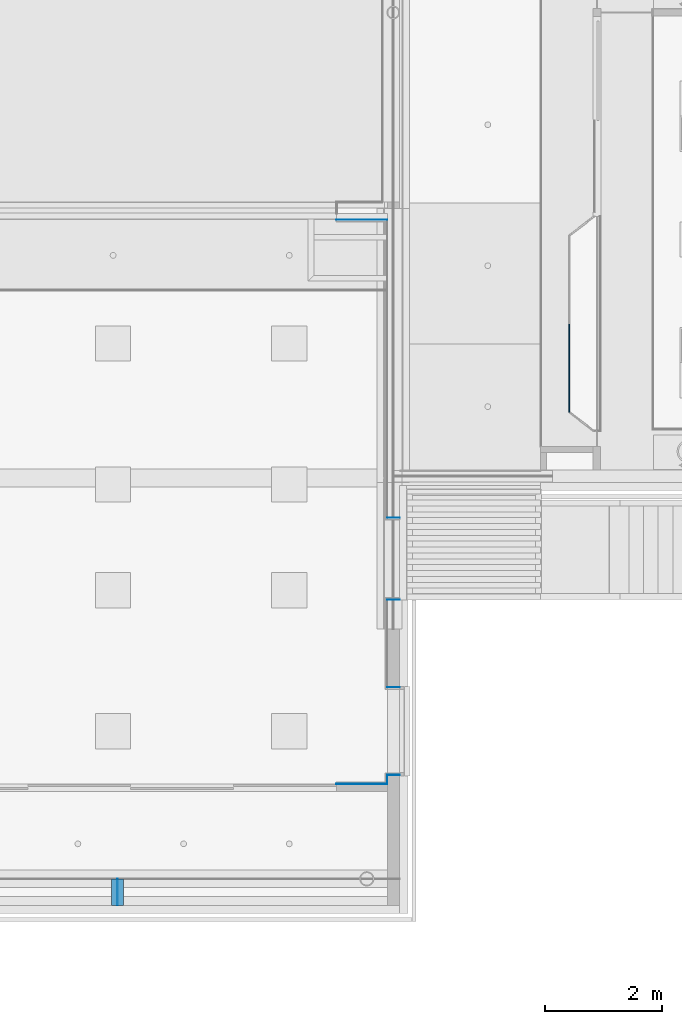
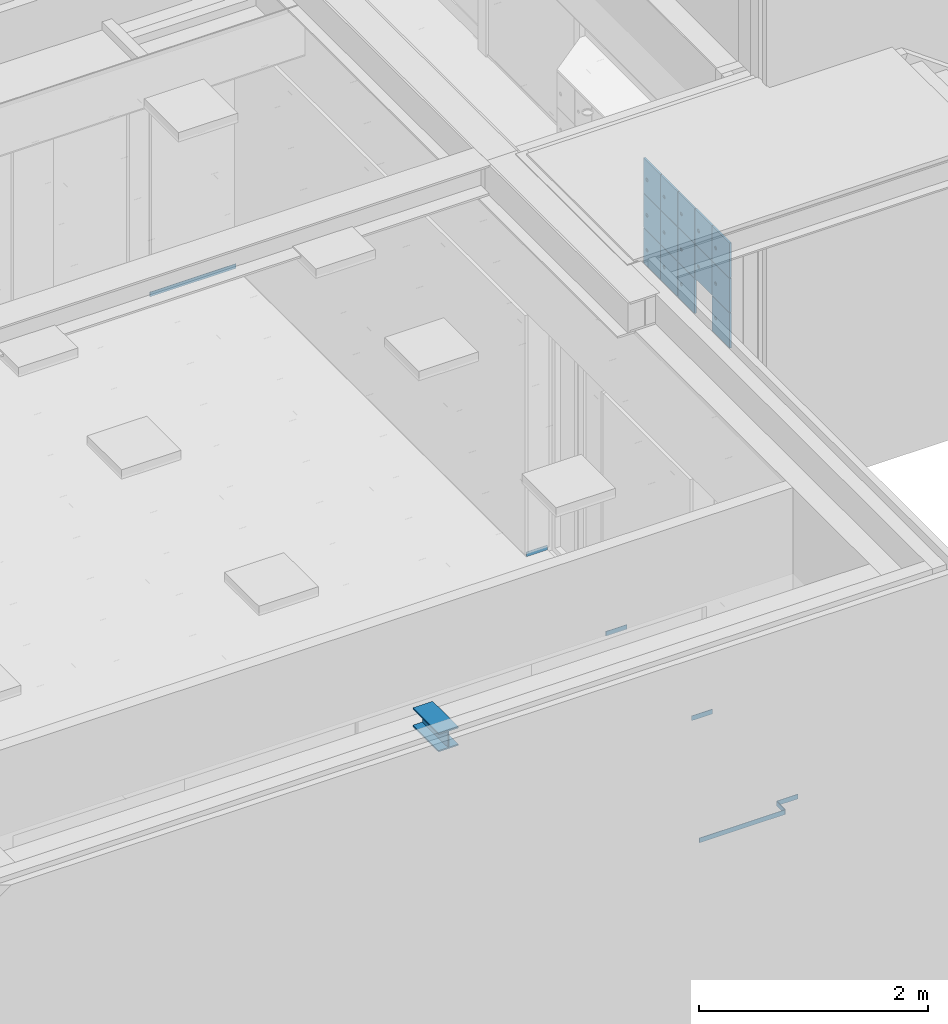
# One storey, part 134 of 347: 24 building element parts, 9 elements without a shape of their own.
"""IFC2X3 building model written with IfcOpenShell, lengths in millimetres."""

from ifc_helpers import new_model, entity, si_unit, converted_unit, derived_unit, money_unit, direction, frame, origin_with_axes, place, context, subcontext, project, spatial, faceted_brep, material, type_object, element, aggregate, save


model = new_model("IFC2X3")

# Units and contexts
model_context = context("Model", 3, precision=0.01, world=origin_with_axes(), true_north=direction((0.0, 1.0)))
plan_context = context("Plan", 3, precision=0.01, world=origin_with_axes(), true_north=direction((0.0, 1.0)))
body_context = subcontext(model_context, "Body", "Model", "MODEL_VIEW")
ifc_project = project(units=[si_unit("LENGTHUNIT", "METRE", prefix="MILLI"), si_unit("AREAUNIT", "SQUARE_METRE"), si_unit("VOLUMEUNIT", "CUBIC_METRE"), converted_unit("PLANEANGLEUNIT", "DEGREE", entity("IfcPlaneAngleMeasure", 0.0174532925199), si_unit("PLANEANGLEUNIT", "RADIAN"), dimensions=[0, 0, 0, 0, 0, 0, 0]), money_unit("EUR"), converted_unit("TIMEUNIT", "Year", entity("IfcTimeMeasure", 31556926.0), si_unit("TIMEUNIT", "SECOND"), dimensions=[0, 0, 1, 0, 0, 0, 0]), si_unit("MASSUNIT", "GRAM", prefix="KILO"), si_unit("THERMODYNAMICTEMPERATUREUNIT", "DEGREE_CELSIUS"), si_unit("LUMINOUSINTENSITYUNIT", "LUMEN"), si_unit("ENERGYUNIT", "JOULE", prefix="MEGA"), derived_unit("THERMALCONDUCTANCEUNIT", [(si_unit("POWERUNIT", "WATT"), 1), (si_unit("LENGTHUNIT", "METRE"), -1), (si_unit("THERMODYNAMICTEMPERATUREUNIT", "KELVIN"), -1)]), derived_unit("SPECIFICHEATCAPACITYUNIT", [(si_unit("ENERGYUNIT", "JOULE"), 1), (si_unit("MASSUNIT", "GRAM", prefix="KILO"), -1), (si_unit("THERMODYNAMICTEMPERATUREUNIT", "KELVIN"), -1)]), derived_unit("MASSDENSITYUNIT", [(si_unit("MASSUNIT", "GRAM", prefix="KILO"), 1), (si_unit("VOLUMEUNIT", "CUBIC_METRE"), -1)])], contexts=[model_context, plan_context])

# Site, building, storey
site_placement = place(None, origin_with_axes())
site = spatial("IfcSite", under=ifc_project, at=site_placement, Name="Site", CompositionType="ELEMENT")
building_placement = place(site_placement, origin_with_axes())
building = spatial("IfcBuilding", under=site, at=building_placement, Name="Naam gebouw", CompositionType="ELEMENT")
storey_placement = place(building_placement, origin_with_axes())
storey = spatial("IfcBuildingStorey", under=building, at=storey_placement, Name="begane grond", CompositionType="ELEMENT", Elevation=0.0)

# Beam, building element parts
beam_type_1 = type_object("IfcBeamType", Name="28 HEB200 200 x 200", PredefinedType="BEAM")
beam_1_placement = place(storey_placement, frame((39850.0, 4850.0000004, 3560.0), z_axis=(0.0, 0.0, 1.0), x_axis=(1.0, 0.0, 0.0)))
beam_1 = element("IfcBeam", 1, at=beam_1_placement, inside=storey, type_object=beam_type_1, Name="28_Balk-x", ObjectType="BEAM")
ifc_material_1 = material(Name="Metaal - Staal C")
building_element_part_1_placement = place(beam_1_placement, origin_with_axes())
building_element_part_1 = element("IfcBuildingElementPart", 2, at=building_element_part_1_placement, material=ifc_material_1, Name="Metaal - Staal C", context=body_context, shape_type="Brep", body=[
    faceted_brep([(-100.0, 450.0, 185.0), (-4.5, 450.0, 185.0), (-4.5, 0.0, 185.0), (-100.0, 0.0, 185.0), (-100.0, 450.0, 200.0), (100.0, 450.0, 200.0), (100.0, 450.0, 185.0), (4.5, 450.0, 185.0), (4.5, 0.0, 185.0), (100.0, 0.0, 185.0), (100.0, 0.0, 200.0), (-100.0, 0.0, 200.0)], [[[0, 1, 2, 3]], [[0, 4, 5, 6, 7, 1]], [[1, 7, 8, 2]], [[3, 2, 8, 9, 10, 11]], [[4, 0, 3, 11]], [[5, 4, 11, 10]], [[6, 5, 10, 9]], [[7, 6, 9, 8]]]),
])
building_element_part_2_placement = place(beam_1_placement, origin_with_axes())
building_element_part_2 = element("IfcBuildingElementPart", 3, at=building_element_part_2_placement, material=ifc_material_1, Name="Metaal - Staal C", context=body_context, shape_type="Brep", body=[
    faceted_brep([(-100.0, 450.0, 15.0), (-100.0, 450.0, 0.0), (-100.0, 0.0, 0.0), (-100.0, 0.0, 15.0), (-4.5, 450.0, 15.0), (4.5, 450.0, 15.0), (100.0, 450.0, 15.0), (100.0, 450.0, 0.0), (100.0, 0.0, 0.0), (100.0, 0.0, 15.0), (4.5, 0.0, 15.0), (-4.5, 0.0, 15.0)], [[[0, 1, 2, 3]], [[0, 4, 5, 6, 7, 1]], [[1, 7, 8, 2]], [[3, 2, 8, 9, 10, 11]], [[4, 0, 3, 11]], [[5, 4, 11, 10]], [[6, 5, 10, 9]], [[7, 6, 9, 8]]]),
])
building_element_part_3_placement = place(beam_1_placement, origin_with_axes())
building_element_part_3 = element("IfcBuildingElementPart", 4, at=building_element_part_3_placement, material=ifc_material_1, Name="Metaal - Staal C", context=body_context, shape_type="Brep", body=[
    faceted_brep([(-4.5, 450.0, 15.0), (4.5, 450.0, 15.0), (4.5, 0.0, 15.0), (-4.5, 0.0, 15.0), (-4.5, 450.0, 185.0), (4.5, 450.0, 185.0), (4.5, 0.0, 185.0), (-4.5, 0.0, 185.0)], [[[0, 1, 2, 3]], [[0, 4, 5, 1]], [[1, 5, 6, 2]], [[3, 2, 6, 7]], [[4, 0, 3, 7]], [[5, 4, 7, 6]]]),
])
aggregate(beam_1, [building_element_part_1, building_element_part_2, building_element_part_3])

# Proxy, building element part
building_element_proxy_type = type_object("IfcBuildingElementProxyType", Name="Viltonwand 2600+ 33 x 2600", PredefinedType="NOTDEFINED")
proxy_1_placement = place(storey_placement, frame((44654.9999844, 7065.00951773, 0.0), z_axis=(0.0, 0.0, 1.0), x_axis=(-1.0, 8.90627314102e-08, 0.0)))
proxy_1 = element("IfcBuildingElementProxy", 5, at=proxy_1_placement, inside=storey, type_object=building_element_proxy_type, Name="42_52 wandtegels keramisch")
ifc_material_2 = material(Name="Kunststof - massief")
building_element_part_4_placement = place(proxy_1_placement, origin_with_axes())
building_element_part_4 = element("IfcBuildingElementPart", 6, at=building_element_part_4_placement, material=ifc_material_2, Name="Kunststof - massief", context=body_context, shape_type="Brep", body=[
    faceted_brep([(214.99958182, -4.99998681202, 0.0), (214.99958182, -4.99998681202, 50.0000059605), (4.45318448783e-07, -5.00000596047, 50.0000059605), (4.45318448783e-07, -5.00000596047, 0.0), (214.999594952, 3.70298618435e-05, 50.0000059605), (214.999594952, 3.70298618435e-05, 0.0), (0.0, 1.78814101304e-05, 50.0000059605), (0.0, 1.78814101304e-05, 0.0)], [[[0, 1, 2, 3]], [[4, 1, 0, 5]], [[1, 4, 6, 2]], [[6, 7, 3, 2]], [[5, 0, 3, 7]], [[4, 5, 7, 6]]]),
])
aggregate(proxy_1, [building_element_part_4])

proxy_2_placement = place(storey_placement, frame((44445.0004073, 7065.00953644, 0.0), z_axis=(0.0, 0.0, 1.0), x_axis=(-2.71545800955e-06, -0.999999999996, 0.0)))
proxy_2 = element("IfcBuildingElementProxy", 7, at=proxy_2_placement, inside=storey, type_object=building_element_proxy_type, Name="42_53 wandtegels keramisch")
building_element_part_5_placement = place(proxy_2_placement, origin_with_axes())
building_element_part_5 = element("IfcBuildingElementPart", 8, at=building_element_part_5_placement, material=ifc_material_2, Name="Kunststof - massief", context=body_context, shape_type="Brep", body=[
    faceted_brep([(3.65844972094e-05, 1.78814119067e-05, 0.0), (3.65844972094e-05, 1.78814119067e-05, 50.0000059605), (150.000005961, 1.78814119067e-05, 50.0000059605), (150.000005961, 1.78814119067e-05, 0.0), (5.01618524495e-05, -5.00000596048, 50.0000059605), (5.01618524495e-05, -5.00000596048, 0.0), (150.000019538, -5.00000596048, 50.0000059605), (150.000019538, -5.00000596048, 0.0)], [[[0, 1, 2, 3]], [[4, 1, 0, 5]], [[1, 4, 6, 2]], [[7, 3, 2, 6]], [[5, 0, 3, 7]], [[4, 5, 7, 6]]]),
])
aggregate(proxy_2, [building_element_part_5])

proxy_3_placement = place(storey_placement, frame((44445.0, 6915.00953644, 0.0), z_axis=(0.0, 0.0, 1.0), x_axis=(-1.0, 0.0, 0.0)))
proxy_3 = element("IfcBuildingElementProxy", 9, at=proxy_3_placement, inside=storey, type_object=building_element_proxy_type, Name="42_54 wandtegels keramisch")
building_element_part_6_placement = place(proxy_3_placement, origin_with_axes())
building_element_part_6 = element("IfcBuildingElementPart", 10, at=building_element_part_6_placement, material=ifc_material_2, Name="Kunststof - massief", context=body_context, shape_type="Brep", body=[
    faceted_brep([(5.00000596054, 1.78814101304e-05, 50.0000059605), (4.99999238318, -5.00000596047, 50.0000059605), (870.0, -5.00000596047, 50.0000059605), (870.0, 1.78814101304e-05, 50.0000059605), (4.99999238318, -5.00000596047, 0.0), (5.00000596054, 1.78814101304e-05, 0.0), (870.0, -5.00000596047, 0.0), (870.0, 1.78814101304e-05, 0.0)], [[[0, 1, 2, 3]], [[4, 1, 0, 5]], [[1, 4, 6, 2]], [[2, 6, 7, 3]], [[5, 0, 3, 7]], [[4, 5, 7, 6]]]),
])
aggregate(proxy_3, [building_element_part_6])

proxy_4_placement = place(storey_placement, frame((44655.0007534, 10050.0, 0.0), z_axis=(0.0, 0.0, 1.0), x_axis=(-1.0, 0.0, 0.0)))
proxy_4 = element("IfcBuildingElementProxy", 11, at=proxy_4_placement, inside=storey, type_object=building_element_proxy_type, Name="42_55 wandtegels keramisch")
building_element_part_7_placement = place(proxy_4_placement, origin_with_axes())
building_element_part_7 = element("IfcBuildingElementPart", 12, at=building_element_part_7_placement, material=ifc_material_2, Name="Kunststof - massief", context=body_context, shape_type="Brep", body=[
    faceted_brep([(215.000098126, -5.00000596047, 0.0), (215.000098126, -5.00000596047, 50.0000059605), (0.0, -5.00000596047, 50.0000059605), (0.0, -5.00000596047, 0.0), (215.000098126, 1.78814101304e-05, 50.0000059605), (215.000098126, 1.78814101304e-05, 0.0), (0.0, 1.78814101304e-05, 50.0000059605), (0.0, 1.78814101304e-05, 0.0)], [[[0, 1, 2, 3]], [[4, 1, 0, 5]], [[1, 4, 6, 2]], [[6, 7, 3, 2]], [[5, 0, 3, 7]], [[4, 5, 7, 6]]]),
])
aggregate(proxy_4, [building_element_part_7])

proxy_5_placement = place(storey_placement, frame((44445.0005409, 8565.00953644, 0.0), z_axis=(0.0, 0.0, 1.0), x_axis=(1.0, -8.90627330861e-08, 0.0)))
proxy_5 = element("IfcBuildingElementProxy", 13, at=proxy_5_placement, inside=storey, type_object=building_element_proxy_type, Name="42_57 wandtegels keramisch")
building_element_part_8_placement = place(proxy_5_placement, origin_with_axes())
building_element_part_8 = element("IfcBuildingElementPart", 14, at=building_element_part_8_placement, material=ifc_material_2, Name="Kunststof - massief", context=body_context, shape_type="Brep", body=[
    faceted_brep([(0.000150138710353, 1.78814225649e-05, 0.0), (0.000150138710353, 1.78814225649e-05, 50.0000059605), (209.999440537, 3.65845345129e-05, 50.0000059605), (209.999440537, 3.65845345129e-05, 0.0), (0.000150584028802, -5.00000596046, 50.0000059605), (0.000150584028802, -5.00000596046, 0.0), (209.999440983, -4.99998725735, 50.0000059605), (209.999440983, -4.99998725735, 0.0)], [[[0, 1, 2, 3]], [[4, 1, 0, 5]], [[1, 4, 6, 2]], [[6, 7, 3, 2]], [[5, 0, 3, 7]], [[4, 5, 7, 6]]]),
])
aggregate(proxy_5, [building_element_part_8])

proxy_6_placement = place(storey_placement, frame((43574.9999056, 16525.0, 0.0), z_axis=(0.0, 0.0, 1.0), x_axis=(1.0, 0.0, 0.0)))
proxy_6 = element("IfcBuildingElementProxy", 15, at=proxy_6_placement, inside=storey, type_object=building_element_proxy_type, Name="42_58 wandtegels keramisch")
building_element_part_9_placement = place(proxy_6_placement, origin_with_axes())
building_element_part_9 = element("IfcBuildingElementPart", 16, at=building_element_part_9_placement, material=ifc_material_2, Name="Kunststof - massief", context=body_context, shape_type="Brep", body=[
    faceted_brep([(870.000101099, -5.00000596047, 50.0000059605), (870.000100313, 1.7881408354e-05, 50.0000059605), (0.0, 1.78814119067e-05, 50.0000059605), (0.0, -5.00000596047, 50.0000059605), (870.000100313, 1.7881408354e-05, 0.0), (870.000101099, -5.00000596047, 0.0), (0.0, 1.78814119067e-05, 0.0), (0.0, -5.00000596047, 0.0)], [[[0, 1, 2, 3]], [[4, 1, 0, 5]], [[1, 4, 6, 2]], [[2, 6, 7, 3]], [[5, 0, 3, 7]], [[4, 5, 7, 6]]]),
])
aggregate(proxy_6, [building_element_part_9])

proxy_7_placement = place(storey_placement, frame((44445.0007979, 11450.0, 0.0), z_axis=(0.0, 0.0, 1.0), x_axis=(1.0, -8.90627339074e-08, 0.0)))
proxy_7 = element("IfcBuildingElementProxy", 17, at=proxy_7_placement, inside=storey, type_object=building_element_proxy_type, Name="42_60 wandtegels keramisch")
building_element_part_10_placement = place(proxy_7_placement, origin_with_axes())
building_element_part_10 = element("IfcBuildingElementPart", 18, at=building_element_part_10_placement, material=ifc_material_2, Name="Kunststof - massief", context=body_context, shape_type="Brep", body=[
    faceted_brep([(1.78814119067e-05, 1.78814119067e-05, 0.0), (1.78814119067e-05, 1.78814119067e-05, 50.0000059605), (209.999997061, 3.65845842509e-05, 50.0000059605), (209.999997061, 3.65845842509e-05, 0.0), (1.91128037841e-05, -5.00000596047, 50.0000059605), (1.91128037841e-05, -5.00000596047, 0.0), (209.999997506, -4.9999872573, 50.0000059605), (209.999997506, -4.9999872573, 0.0)], [[[0, 1, 2, 3]], [[4, 1, 0, 5]], [[1, 4, 6, 2]], [[6, 7, 3, 2]], [[5, 0, 3, 7]], [[4, 5, 7, 6]]]),
])
aggregate(proxy_7, [building_element_part_10])

# Beam, building element parts
beam_type_2 = type_object("IfcBeamType", Name="VI Garderobe 01 3012 x 1122", PredefinedType="BEAM")
beam_2_placement = place(storey_placement, frame((47531.9720234, 16255.5, 0.0), z_axis=(0.0, 0.0, 1.0), x_axis=(0.0, -1.0, 0.0)))
beam_2 = element("IfcBeam", 19, at=beam_2_placement, inside=storey, type_object=beam_type_2, Name="28_Balk-x", ObjectType="BEAM")
ifc_material_3 = material(Name="Hout - Lockers")
building_element_part_11_placement = place(beam_2_placement, origin_with_axes())
building_element_part_11 = element("IfcBuildingElementPart", 20, at=building_element_part_11_placement, material=ifc_material_3, Name="Hout - Lockers", context=body_context, shape_type="Brep", body=[
    faceted_brep([(2709.0, 18.0, 1175.0), (2709.0, 18.0, 802.0), (2709.0, 0.0, 802.0), (2709.0, 0.0, 1175.0), (3012.0, 18.0, 1175.0), (3012.0, 18.0, 802.0), (2787.0, 18.0, 975.0), (2783.5623059, 18.0, 985.580134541), (2774.5623059, 18.0, 992.119017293), (2763.4376941, 18.0, 992.119017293), (2754.4376941, 18.0, 985.580134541), (2751.0, 18.0, 975.0), (2754.4376941, 18.0, 964.419865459), (2763.4376941, 18.0, 957.880982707), (2774.5623059, 18.0, 957.880982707), (2783.5623059, 18.0, 964.419865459), (3012.0, 0.0, 802.0), (3012.0, 0.0, 1175.0), (2787.0, 0.0, 975.0), (2783.5623059, 0.0, 964.419865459), (2774.5623059, 0.0, 957.880982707), (2763.4376941, 0.0, 957.880982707), (2754.4376941, 0.0, 964.419865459), (2751.0, 0.0, 975.0), (2754.4376941, 0.0, 985.580134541), (2763.4376941, 0.0, 992.119017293), (2774.5623059, 0.0, 992.119017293), (2783.5623059, 0.0, 985.580134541)], [[[0, 1, 2, 3]], [[0, 4, 5, 1], [6, 7, 8, 9, 10, 11, 12, 13, 14, 15]], [[1, 5, 16, 2]], [[3, 2, 16, 17], [18, 19, 20, 21, 22, 23, 24, 25, 26, 27]], [[4, 0, 3, 17]], [[5, 4, 17, 16]], [[7, 6, 18, 27]], [[8, 7, 27, 26]], [[9, 8, 26, 25]], [[10, 9, 25, 24]], [[11, 10, 24, 23]], [[12, 11, 23, 22]], [[13, 12, 22, 21]], [[14, 13, 21, 20]], [[15, 14, 20, 19]], [[6, 15, 19, 18]]]),
])
building_element_part_12_placement = place(beam_2_placement, origin_with_axes())
building_element_part_12 = element("IfcBuildingElementPart", 21, at=building_element_part_12_placement, material=ifc_material_3, Name="Hout - Lockers", context=body_context, shape_type="Brep", body=[
    faceted_brep([(2709.0, 18.0, 796.0), (2709.0, 18.0, 432.0), (2709.0, 0.0, 432.0), (2709.0, 0.0, 796.0), (3012.0, 18.0, 796.0), (3012.0, 18.0, 432.0), (2787.0, 18.0, 596.0), (2783.5623059, 18.0, 606.580134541), (2774.5623059, 18.0, 613.119017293), (2763.4376941, 18.0, 613.119017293), (2754.4376941, 18.0, 606.580134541), (2751.0, 18.0, 596.0), (2754.4376941, 18.0, 585.419865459), (2763.4376941, 18.0, 578.880982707), (2774.5623059, 18.0, 578.880982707), (2783.5623059, 18.0, 585.419865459), (3012.0, 0.0, 432.0), (3012.0, 0.0, 796.0), (2787.0, 0.0, 596.0), (2783.5623059, 0.0, 585.419865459), (2774.5623059, 0.0, 578.880982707), (2763.4376941, 0.0, 578.880982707), (2754.4376941, 0.0, 585.419865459), (2751.0, 0.0, 596.0), (2754.4376941, 0.0, 606.580134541), (2763.4376941, 0.0, 613.119017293), (2774.5623059, 0.0, 613.119017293), (2783.5623059, 0.0, 606.580134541)], [[[0, 1, 2, 3]], [[0, 4, 5, 1], [6, 7, 8, 9, 10, 11, 12, 13, 14, 15]], [[1, 5, 16, 2]], [[3, 2, 16, 17], [18, 19, 20, 21, 22, 23, 24, 25, 26, 27]], [[4, 0, 3, 17]], [[5, 4, 17, 16]], [[7, 6, 18, 27]], [[8, 7, 27, 26]], [[9, 8, 26, 25]], [[10, 9, 25, 24]], [[11, 10, 24, 23]], [[12, 11, 23, 22]], [[13, 12, 22, 21]], [[14, 13, 21, 20]], [[15, 14, 20, 19]], [[6, 15, 19, 18]]]),
])
building_element_part_13_placement = place(beam_2_placement, origin_with_axes())
building_element_part_13 = element("IfcBuildingElementPart", 22, at=building_element_part_13_placement, material=ifc_material_3, Name="Hout - Lockers", context=body_context, shape_type="Brep", body=[
    faceted_brep([(2709.0, 18.0, 426.0), (2709.0, 18.0, 53.0), (2709.0, 0.0, 53.0), (2709.0, 0.0, 426.0), (3012.0, 18.0, 426.0), (3012.0, 18.0, 53.0), (2785.5992825, 18.0, 226.009810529), (2782.1615884, 18.0, 236.58994507), (2773.1615884, 18.0, 243.128827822), (2762.0369766, 18.0, 243.128827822), (2753.0369766, 18.0, 236.58994507), (2749.5992825, 18.0, 226.009810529), (2753.0369766, 18.0, 215.429675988), (2762.0369766, 18.0, 208.890793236), (2773.1615884, 18.0, 208.890793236), (2782.1615884, 18.0, 215.429675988), (3012.0, 0.0, 53.0), (3012.0, 0.0, 426.0), (2785.5992825, 0.0, 226.009810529), (2782.1615884, 0.0, 215.429675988), (2773.1615884, 0.0, 208.890793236), (2762.0369766, 0.0, 208.890793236), (2753.0369766, 0.0, 215.429675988), (2749.5992825, 0.0, 226.009810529), (2753.0369766, 0.0, 236.58994507), (2762.0369766, 0.0, 243.128827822), (2773.1615884, 0.0, 243.128827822), (2782.1615884, 0.0, 236.58994507)], [[[0, 1, 2, 3]], [[0, 4, 5, 1], [6, 7, 8, 9, 10, 11, 12, 13, 14, 15]], [[1, 5, 16, 2]], [[3, 2, 16, 17], [18, 19, 20, 21, 22, 23, 24, 25, 26, 27]], [[4, 0, 3, 17]], [[5, 4, 17, 16]], [[7, 6, 18, 27]], [[8, 7, 27, 26]], [[9, 8, 26, 25]], [[10, 9, 25, 24]], [[11, 10, 24, 23]], [[12, 11, 23, 22]], [[13, 12, 22, 21]], [[14, 13, 21, 20]], [[15, 14, 20, 19]], [[6, 15, 19, 18]]]),
])
building_element_part_14_placement = place(beam_2_placement, origin_with_axes())
building_element_part_14 = element("IfcBuildingElementPart", 23, at=building_element_part_14_placement, material=ifc_material_3, Name="Hout - Lockers", context=body_context, shape_type="Brep", body=[
    faceted_brep([(2109.0, 18.0, 1175.0), (2109.0, 18.0, 802.0), (2109.0, 0.0, 802.0), (2109.0, 0.0, 1175.0), (2403.0, 18.0, 1175.0), (2403.0, 18.0, 802.0), (2187.0, 18.0, 975.0), (2183.5623059, 18.0, 985.580134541), (2174.5623059, 18.0, 992.119017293), (2163.4376941, 18.0, 992.119017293), (2154.4376941, 18.0, 985.580134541), (2151.0, 18.0, 975.0), (2154.4376941, 18.0, 964.419865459), (2163.4376941, 18.0, 957.880982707), (2174.5623059, 18.0, 957.880982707), (2183.5623059, 18.0, 964.419865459), (2403.0, 0.0, 802.0), (2403.0, 0.0, 1175.0), (2187.0, 0.0, 975.0), (2183.5623059, 0.0, 964.419865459), (2174.5623059, 0.0, 957.880982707), (2163.4376941, 0.0, 957.880982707), (2154.4376941, 0.0, 964.419865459), (2151.0, 0.0, 975.0), (2154.4376941, 0.0, 985.580134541), (2163.4376941, 0.0, 992.119017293), (2174.5623059, 0.0, 992.119017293), (2183.5623059, 0.0, 985.580134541)], [[[0, 1, 2, 3]], [[0, 4, 5, 1], [6, 7, 8, 9, 10, 11, 12, 13, 14, 15]], [[1, 5, 16, 2]], [[3, 2, 16, 17], [18, 19, 20, 21, 22, 23, 24, 25, 26, 27]], [[4, 0, 3, 17]], [[5, 4, 17, 16]], [[7, 6, 18, 27]], [[8, 7, 27, 26]], [[9, 8, 26, 25]], [[10, 9, 25, 24]], [[11, 10, 24, 23]], [[12, 11, 23, 22]], [[13, 12, 22, 21]], [[14, 13, 21, 20]], [[15, 14, 20, 19]], [[6, 15, 19, 18]]]),
])
building_element_part_15_placement = place(beam_2_placement, origin_with_axes())
building_element_part_15 = element("IfcBuildingElementPart", 24, at=building_element_part_15_placement, material=ifc_material_3, Name="Hout - Lockers", context=body_context, shape_type="Brep", body=[
    faceted_brep([(2109.0, 18.0, 796.0), (2109.0, 18.0, 432.0), (2109.0, 0.0, 432.0), (2109.0, 0.0, 796.0), (2403.0, 18.0, 796.0), (2403.0, 18.0, 432.0), (2187.0, 18.0, 596.0), (2183.5623059, 18.0, 606.580134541), (2174.5623059, 18.0, 613.119017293), (2163.4376941, 18.0, 613.119017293), (2154.4376941, 18.0, 606.580134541), (2151.0, 18.0, 596.0), (2154.4376941, 18.0, 585.419865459), (2163.4376941, 18.0, 578.880982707), (2174.5623059, 18.0, 578.880982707), (2183.5623059, 18.0, 585.419865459), (2403.0, 0.0, 432.0), (2403.0, 0.0, 796.0), (2187.0, 0.0, 596.0), (2183.5623059, 0.0, 585.419865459), (2174.5623059, 0.0, 578.880982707), (2163.4376941, 0.0, 578.880982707), (2154.4376941, 0.0, 585.419865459), (2151.0, 0.0, 596.0), (2154.4376941, 0.0, 606.580134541), (2163.4376941, 0.0, 613.119017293), (2174.5623059, 0.0, 613.119017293), (2183.5623059, 0.0, 606.580134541)], [[[0, 1, 2, 3]], [[0, 4, 5, 1], [6, 7, 8, 9, 10, 11, 12, 13, 14, 15]], [[1, 5, 16, 2]], [[3, 2, 16, 17], [18, 19, 20, 21, 22, 23, 24, 25, 26, 27]], [[4, 0, 3, 17]], [[5, 4, 17, 16]], [[7, 6, 18, 27]], [[8, 7, 27, 26]], [[9, 8, 26, 25]], [[10, 9, 25, 24]], [[11, 10, 24, 23]], [[12, 11, 23, 22]], [[13, 12, 22, 21]], [[14, 13, 21, 20]], [[15, 14, 20, 19]], [[6, 15, 19, 18]]]),
])
building_element_part_16_placement = place(beam_2_placement, origin_with_axes())
building_element_part_16 = element("IfcBuildingElementPart", 25, at=building_element_part_16_placement, material=ifc_material_3, Name="Hout - Lockers", context=body_context, shape_type="Brep", body=[
    faceted_brep([(2109.0, 18.0, 426.0), (2109.0, 18.0, 53.0), (2109.0, 0.0, 53.0), (2109.0, 0.0, 426.0), (2403.0, 18.0, 426.0), (2403.0, 18.0, 53.0), (2187.0, 18.0, 226.0), (2183.5623059, 18.0, 236.580134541), (2174.5623059, 18.0, 243.119017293), (2163.4376941, 18.0, 243.119017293), (2154.4376941, 18.0, 236.580134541), (2151.0, 18.0, 226.0), (2154.4376941, 18.0, 215.419865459), (2163.4376941, 18.0, 208.880982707), (2174.5623059, 18.0, 208.880982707), (2183.5623059, 18.0, 215.419865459), (2403.0, 0.0, 53.0), (2403.0, 0.0, 426.0), (2187.0, 0.0, 226.0), (2183.5623059, 0.0, 215.419865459), (2174.5623059, 0.0, 208.880982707), (2163.4376941, 0.0, 208.880982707), (2154.4376941, 0.0, 215.419865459), (2151.0, 0.0, 226.0), (2154.4376941, 0.0, 236.580134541), (2163.4376941, 0.0, 243.119017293), (2174.5623059, 0.0, 243.119017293), (2183.5623059, 0.0, 236.580134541)], [[[0, 1, 2, 3]], [[0, 4, 5, 1], [6, 7, 8, 9, 10, 11, 12, 13, 14, 15]], [[1, 5, 16, 2]], [[3, 2, 16, 17], [18, 19, 20, 21, 22, 23, 24, 25, 26, 27]], [[4, 0, 3, 17]], [[5, 4, 17, 16]], [[7, 6, 18, 27]], [[8, 7, 27, 26]], [[9, 8, 26, 25]], [[10, 9, 25, 24]], [[11, 10, 24, 23]], [[12, 11, 23, 22]], [[13, 12, 22, 21]], [[14, 13, 21, 20]], [[15, 14, 20, 19]], [[6, 15, 19, 18]]]),
])
building_element_part_17_placement = place(beam_2_placement, origin_with_axes())
building_element_part_17 = element("IfcBuildingElementPart", 26, at=building_element_part_17_placement, material=ifc_material_3, Name="Hout - Lockers", context=body_context, shape_type="Brep", body=[
    faceted_brep([(1809.0, 18.0, 1175.0), (1809.0, 18.0, 802.0), (1809.0, 0.0, 802.0), (1809.0, 0.0, 1175.0), (2103.0, 18.0, 1175.0), (2103.0, 18.0, 802.0), (1887.0, 18.0, 975.0), (1883.5623059, 18.0, 985.580134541), (1874.5623059, 18.0, 992.119017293), (1863.4376941, 18.0, 992.119017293), (1854.4376941, 18.0, 985.580134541), (1851.0, 18.0, 975.0), (1854.4376941, 18.0, 964.419865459), (1863.4376941, 18.0, 957.880982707), (1874.5623059, 18.0, 957.880982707), (1883.5623059, 18.0, 964.419865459), (2103.0, 0.0, 802.0), (2103.0, 0.0, 1175.0), (1887.0, 0.0, 975.0), (1883.5623059, 0.0, 964.419865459), (1874.5623059, 0.0, 957.880982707), (1863.4376941, 0.0, 957.880982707), (1854.4376941, 0.0, 964.419865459), (1851.0, 0.0, 975.0), (1854.4376941, 0.0, 985.580134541), (1863.4376941, 0.0, 992.119017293), (1874.5623059, 0.0, 992.119017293), (1883.5623059, 0.0, 985.580134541)], [[[0, 1, 2, 3]], [[0, 4, 5, 1], [6, 7, 8, 9, 10, 11, 12, 13, 14, 15]], [[1, 5, 16, 2]], [[3, 2, 16, 17], [18, 19, 20, 21, 22, 23, 24, 25, 26, 27]], [[4, 0, 3, 17]], [[5, 4, 17, 16]], [[7, 6, 18, 27]], [[8, 7, 27, 26]], [[9, 8, 26, 25]], [[10, 9, 25, 24]], [[11, 10, 24, 23]], [[12, 11, 23, 22]], [[13, 12, 22, 21]], [[14, 13, 21, 20]], [[15, 14, 20, 19]], [[6, 15, 19, 18]]]),
])
building_element_part_18_placement = place(beam_2_placement, origin_with_axes())
building_element_part_18 = element("IfcBuildingElementPart", 27, at=building_element_part_18_placement, material=ifc_material_3, Name="Hout - Lockers", context=body_context, shape_type="Brep", body=[
    faceted_brep([(1809.0, 18.0, 796.0), (1809.0, 18.0, 432.0), (1809.0, 0.0, 432.0), (1809.0, 0.0, 796.0), (2103.0, 18.0, 796.0), (2103.0, 18.0, 432.0), (1887.0, 18.0, 596.0), (1883.5623059, 18.0, 606.580134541), (1874.5623059, 18.0, 613.119017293), (1863.4376941, 18.0, 613.119017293), (1854.4376941, 18.0, 606.580134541), (1851.0, 18.0, 596.0), (1854.4376941, 18.0, 585.419865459), (1863.4376941, 18.0, 578.880982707), (1874.5623059, 18.0, 578.880982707), (1883.5623059, 18.0, 585.419865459), (2103.0, 0.0, 432.0), (2103.0, 0.0, 796.0), (1887.0, 0.0, 596.0), (1883.5623059, 0.0, 585.419865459), (1874.5623059, 0.0, 578.880982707), (1863.4376941, 0.0, 578.880982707), (1854.4376941, 0.0, 585.419865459), (1851.0, 0.0, 596.0), (1854.4376941, 0.0, 606.580134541), (1863.4376941, 0.0, 613.119017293), (1874.5623059, 0.0, 613.119017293), (1883.5623059, 0.0, 606.580134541)], [[[0, 1, 2, 3]], [[0, 4, 5, 1], [6, 7, 8, 9, 10, 11, 12, 13, 14, 15]], [[1, 5, 16, 2]], [[3, 2, 16, 17], [18, 19, 20, 21, 22, 23, 24, 25, 26, 27]], [[4, 0, 3, 17]], [[5, 4, 17, 16]], [[7, 6, 18, 27]], [[8, 7, 27, 26]], [[9, 8, 26, 25]], [[10, 9, 25, 24]], [[11, 10, 24, 23]], [[12, 11, 23, 22]], [[13, 12, 22, 21]], [[14, 13, 21, 20]], [[15, 14, 20, 19]], [[6, 15, 19, 18]]]),
])
building_element_part_19_placement = place(beam_2_placement, origin_with_axes())
building_element_part_19 = element("IfcBuildingElementPart", 28, at=building_element_part_19_placement, material=ifc_material_3, Name="Hout - Lockers", context=body_context, shape_type="Brep", body=[
    faceted_brep([(1809.0, 18.0, 426.0), (1809.0, 18.0, 53.0), (1809.0, 0.0, 53.0), (1809.0, 0.0, 426.0), (2103.0, 18.0, 426.0), (2103.0, 18.0, 53.0), (1887.0, 18.0, 226.0), (1883.5623059, 18.0, 236.580134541), (1874.5623059, 18.0, 243.119017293), (1863.4376941, 18.0, 243.119017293), (1854.4376941, 18.0, 236.580134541), (1851.0, 18.0, 226.0), (1854.4376941, 18.0, 215.419865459), (1863.4376941, 18.0, 208.880982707), (1874.5623059, 18.0, 208.880982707), (1883.5623059, 18.0, 215.419865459), (2103.0, 0.0, 53.0), (2103.0, 0.0, 426.0), (1887.0, 0.0, 226.0), (1883.5623059, 0.0, 215.419865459), (1874.5623059, 0.0, 208.880982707), (1863.4376941, 0.0, 208.880982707), (1854.4376941, 0.0, 215.419865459), (1851.0, 0.0, 226.0), (1854.4376941, 0.0, 236.580134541), (1863.4376941, 0.0, 243.119017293), (1874.5623059, 0.0, 243.119017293), (1883.5623059, 0.0, 236.580134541)], [[[0, 1, 2, 3]], [[0, 4, 5, 1], [6, 7, 8, 9, 10, 11, 12, 13, 14, 15]], [[1, 5, 16, 2]], [[3, 2, 16, 17], [18, 19, 20, 21, 22, 23, 24, 25, 26, 27]], [[4, 0, 3, 17]], [[5, 4, 17, 16]], [[7, 6, 18, 27]], [[8, 7, 27, 26]], [[9, 8, 26, 25]], [[10, 9, 25, 24]], [[11, 10, 24, 23]], [[12, 11, 23, 22]], [[13, 12, 22, 21]], [[14, 13, 21, 20]], [[15, 14, 20, 19]], [[6, 15, 19, 18]]]),
])
building_element_part_20_placement = place(beam_2_placement, origin_with_axes())
building_element_part_20 = element("IfcBuildingElementPart", 29, at=building_element_part_20_placement, material=ifc_material_3, Name="Hout - Lockers", context=body_context, shape_type="Brep", body=[
    faceted_brep([(1509.0, 18.0, 1175.0), (1509.0, 18.0, 802.0), (1509.0, 0.0, 802.0), (1509.0, 0.0, 1175.0), (1803.0, 18.0, 1175.0), (1803.0, 18.0, 802.0), (1587.0, 18.0, 975.0), (1583.5623059, 18.0, 985.580134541), (1574.5623059, 18.0, 992.119017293), (1563.4376941, 18.0, 992.119017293), (1554.4376941, 18.0, 985.580134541), (1551.0, 18.0, 975.0), (1554.4376941, 18.0, 964.419865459), (1563.4376941, 18.0, 957.880982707), (1574.5623059, 18.0, 957.880982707), (1583.5623059, 18.0, 964.419865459), (1803.0, 0.0, 802.0), (1803.0, 0.0, 1175.0), (1587.0, 0.0, 975.0), (1583.5623059, 0.0, 964.419865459), (1574.5623059, 0.0, 957.880982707), (1563.4376941, 0.0, 957.880982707), (1554.4376941, 0.0, 964.419865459), (1551.0, 0.0, 975.0), (1554.4376941, 0.0, 985.580134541), (1563.4376941, 0.0, 992.119017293), (1574.5623059, 0.0, 992.119017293), (1583.5623059, 0.0, 985.580134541)], [[[0, 1, 2, 3]], [[0, 4, 5, 1], [6, 7, 8, 9, 10, 11, 12, 13, 14, 15]], [[1, 5, 16, 2]], [[3, 2, 16, 17], [18, 19, 20, 21, 22, 23, 24, 25, 26, 27]], [[4, 0, 3, 17]], [[5, 4, 17, 16]], [[7, 6, 18, 27]], [[8, 7, 27, 26]], [[9, 8, 26, 25]], [[10, 9, 25, 24]], [[11, 10, 24, 23]], [[12, 11, 23, 22]], [[13, 12, 22, 21]], [[14, 13, 21, 20]], [[15, 14, 20, 19]], [[6, 15, 19, 18]]]),
])
building_element_part_21_placement = place(beam_2_placement, origin_with_axes())
building_element_part_21 = element("IfcBuildingElementPart", 30, at=building_element_part_21_placement, material=ifc_material_3, Name="Hout - Lockers", context=body_context, shape_type="Brep", body=[
    faceted_brep([(1509.0, 18.0, 796.0), (1509.0, 18.0, 432.0), (1509.0, 0.0, 432.0), (1509.0, 0.0, 796.0), (1803.0, 18.0, 796.0), (1803.0, 18.0, 432.0), (1587.0, 18.0, 596.0), (1583.5623059, 18.0, 606.580134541), (1574.5623059, 18.0, 613.119017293), (1563.4376941, 18.0, 613.119017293), (1554.4376941, 18.0, 606.580134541), (1551.0, 18.0, 596.0), (1554.4376941, 18.0, 585.419865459), (1563.4376941, 18.0, 578.880982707), (1574.5623059, 18.0, 578.880982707), (1583.5623059, 18.0, 585.419865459), (1803.0, 0.0, 432.0), (1803.0, 0.0, 796.0), (1587.0, 0.0, 596.0), (1583.5623059, 0.0, 585.419865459), (1574.5623059, 0.0, 578.880982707), (1563.4376941, 0.0, 578.880982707), (1554.4376941, 0.0, 585.419865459), (1551.0, 0.0, 596.0), (1554.4376941, 0.0, 606.580134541), (1563.4376941, 0.0, 613.119017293), (1574.5623059, 0.0, 613.119017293), (1583.5623059, 0.0, 606.580134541)], [[[0, 1, 2, 3]], [[0, 4, 5, 1], [6, 7, 8, 9, 10, 11, 12, 13, 14, 15]], [[1, 5, 16, 2]], [[3, 2, 16, 17], [18, 19, 20, 21, 22, 23, 24, 25, 26, 27]], [[4, 0, 3, 17]], [[5, 4, 17, 16]], [[7, 6, 18, 27]], [[8, 7, 27, 26]], [[9, 8, 26, 25]], [[10, 9, 25, 24]], [[11, 10, 24, 23]], [[12, 11, 23, 22]], [[13, 12, 22, 21]], [[14, 13, 21, 20]], [[15, 14, 20, 19]], [[6, 15, 19, 18]]]),
])
building_element_part_22_placement = place(beam_2_placement, origin_with_axes())
building_element_part_22 = element("IfcBuildingElementPart", 31, at=building_element_part_22_placement, material=ifc_material_3, Name="Hout - Lockers", context=body_context, shape_type="Brep", body=[
    faceted_brep([(1509.0, 18.0, 426.0), (1509.0, 18.0, 53.0), (1509.0, 0.0, 53.0), (1509.0, 0.0, 426.0), (1803.0, 18.0, 426.0), (1803.0, 18.0, 53.0), (1587.0, 18.0, 226.0), (1583.5623059, 18.0, 236.580134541), (1574.5623059, 18.0, 243.119017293), (1563.4376941, 18.0, 243.119017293), (1554.4376941, 18.0, 236.580134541), (1551.0, 18.0, 226.0), (1554.4376941, 18.0, 215.419865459), (1563.4376941, 18.0, 208.880982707), (1574.5623059, 18.0, 208.880982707), (1583.5623059, 18.0, 215.419865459), (1803.0, 0.0, 53.0), (1803.0, 0.0, 426.0), (1587.0, 0.0, 226.0), (1583.5623059, 0.0, 215.419865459), (1574.5623059, 0.0, 208.880982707), (1563.4376941, 0.0, 208.880982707), (1554.4376941, 0.0, 215.419865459), (1551.0, 0.0, 226.0), (1554.4376941, 0.0, 236.580134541), (1563.4376941, 0.0, 243.119017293), (1574.5623059, 0.0, 243.119017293), (1583.5623059, 0.0, 236.580134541)], [[[0, 1, 2, 3]], [[0, 4, 5, 1], [6, 7, 8, 9, 10, 11, 12, 13, 14, 15]], [[1, 5, 16, 2]], [[3, 2, 16, 17], [18, 19, 20, 21, 22, 23, 24, 25, 26, 27]], [[4, 0, 3, 17]], [[5, 4, 17, 16]], [[7, 6, 18, 27]], [[8, 7, 27, 26]], [[9, 8, 26, 25]], [[10, 9, 25, 24]], [[11, 10, 24, 23]], [[12, 11, 23, 22]], [[13, 12, 22, 21]], [[14, 13, 21, 20]], [[15, 14, 20, 19]], [[6, 15, 19, 18]]]),
])
building_element_part_23_placement = place(beam_2_placement, origin_with_axes())
building_element_part_23 = element("IfcBuildingElementPart", 32, at=building_element_part_23_placement, material=ifc_material_3, Name="Hout - Lockers", context=body_context, shape_type="Brep", body=[
    faceted_brep([(2409.0, 18.0, 1175.0), (2409.0, 18.0, 802.0), (2409.0, 0.0, 802.0), (2409.0, 0.0, 1175.0), (2703.0, 18.0, 1175.0), (2703.0, 18.0, 802.0), (2487.0, 18.0, 975.0), (2483.5623059, 18.0, 985.580134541), (2474.5623059, 18.0, 992.119017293), (2463.4376941, 18.0, 992.119017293), (2454.4376941, 18.0, 985.580134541), (2451.0, 18.0, 975.0), (2454.4376941, 18.0, 964.419865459), (2463.4376941, 18.0, 957.880982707), (2474.5623059, 18.0, 957.880982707), (2483.5623059, 18.0, 964.419865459), (2703.0, 0.0, 802.0), (2703.0, 0.0, 1175.0), (2487.0, 0.0, 975.0), (2483.5623059, 0.0, 964.419865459), (2474.5623059, 0.0, 957.880982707), (2463.4376941, 0.0, 957.880982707), (2454.4376941, 0.0, 964.419865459), (2451.0, 0.0, 975.0), (2454.4376941, 0.0, 985.580134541), (2463.4376941, 0.0, 992.119017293), (2474.5623059, 0.0, 992.119017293), (2483.5623059, 0.0, 985.580134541)], [[[0, 1, 2, 3]], [[0, 4, 5, 1], [6, 7, 8, 9, 10, 11, 12, 13, 14, 15]], [[1, 5, 16, 2]], [[3, 2, 16, 17], [18, 19, 20, 21, 22, 23, 24, 25, 26, 27]], [[4, 0, 3, 17]], [[5, 4, 17, 16]], [[7, 6, 18, 27]], [[8, 7, 27, 26]], [[9, 8, 26, 25]], [[10, 9, 25, 24]], [[11, 10, 24, 23]], [[12, 11, 23, 22]], [[13, 12, 22, 21]], [[14, 13, 21, 20]], [[15, 14, 20, 19]], [[6, 15, 19, 18]]]),
])
building_element_part_24_placement = place(beam_2_placement, origin_with_axes())
building_element_part_24 = element("IfcBuildingElementPart", 33, at=building_element_part_24_placement, material=ifc_material_3, Name="Hout - Lockers", context=body_context, shape_type="Brep", body=[
    faceted_brep([(2409.0, 18.0, 796.0), (2409.0, 18.0, 432.0), (2409.0, 0.0, 432.0), (2409.0, 0.0, 796.0), (2703.0, 18.0, 796.0), (2703.0, 18.0, 432.0), (2487.0, 18.0, 596.0), (2483.5623059, 18.0, 606.580134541), (2474.5623059, 18.0, 613.119017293), (2463.4376941, 18.0, 613.119017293), (2454.4376941, 18.0, 606.580134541), (2451.0, 18.0, 596.0), (2454.4376941, 18.0, 585.419865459), (2463.4376941, 18.0, 578.880982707), (2474.5623059, 18.0, 578.880982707), (2483.5623059, 18.0, 585.419865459), (2703.0, 0.0, 432.0), (2703.0, 0.0, 796.0), (2487.0, 0.0, 596.0), (2483.5623059, 0.0, 585.419865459), (2474.5623059, 0.0, 578.880982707), (2463.4376941, 0.0, 578.880982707), (2454.4376941, 0.0, 585.419865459), (2451.0, 0.0, 596.0), (2454.4376941, 0.0, 606.580134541), (2463.4376941, 0.0, 613.119017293), (2474.5623059, 0.0, 613.119017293), (2483.5623059, 0.0, 606.580134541)], [[[0, 1, 2, 3]], [[0, 4, 5, 1], [6, 7, 8, 9, 10, 11, 12, 13, 14, 15]], [[1, 5, 16, 2]], [[3, 2, 16, 17], [18, 19, 20, 21, 22, 23, 24, 25, 26, 27]], [[4, 0, 3, 17]], [[5, 4, 17, 16]], [[7, 6, 18, 27]], [[8, 7, 27, 26]], [[9, 8, 26, 25]], [[10, 9, 25, 24]], [[11, 10, 24, 23]], [[12, 11, 23, 22]], [[13, 12, 22, 21]], [[14, 13, 21, 20]], [[15, 14, 20, 19]], [[6, 15, 19, 18]]]),
])
aggregate(beam_2, [building_element_part_11, building_element_part_12, building_element_part_13, building_element_part_14, building_element_part_15, building_element_part_16, building_element_part_17, building_element_part_18, building_element_part_19, building_element_part_20, building_element_part_21, building_element_part_22, building_element_part_23, building_element_part_24])

save(model, "model.ifc")
